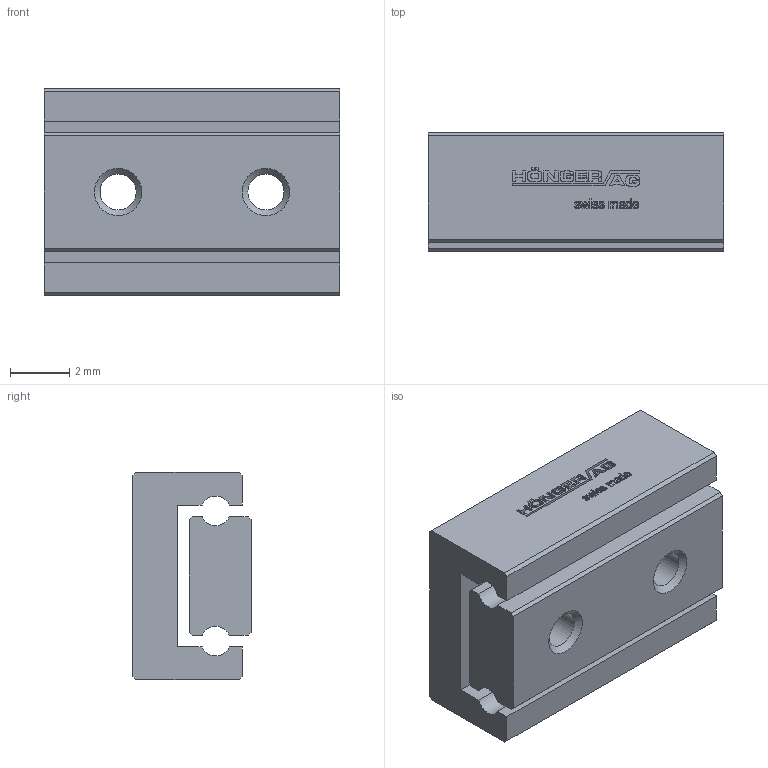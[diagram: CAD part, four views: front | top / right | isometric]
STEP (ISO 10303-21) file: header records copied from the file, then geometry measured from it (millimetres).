
FILE_DESCRIPTION(/* description */ ('STEP AP214'),/* implementation_level */ '2;1');
FILE_NAME(/* name */ 'NDN 05-10.05(0)',/* time_stamp */ '2025-04-16T17:06:34+02:00',/* author */ ('License CC BY-ND 4.0'),/* organization */ ('CADENAS'),/* preprocessor_version */ 'ST-DEVELOPER v19.3',/* originating_system */ 'PARTsolutions',/* authorisation */ ' ');
FILE_SCHEMA (('AUTOMOTIVE_DESIGN {1 0 10303 214 3 1 1}'));
Length unit declared in the file: millimetre
Products named in the file (3): NDN 05-10.05(0); NDN 05-10.05_1; NDN 05-10.05_2
Assembly tree (2 placements, depth 2):
  NDN 05-10.05(0)
    NDN 05-10.05_1
    NDN 05-10.05_2
Bounding box: 10 x 4 x 7 mm (x, y, z)
Volume: 219.9 mm3; surface area: 455.3 mm2
Topology: 2 solids, 2 shells, 507 faces, 1424 edges, 948 vertices
Faces by surface type: cylinder 300, plane 201, cone 6
Full cylindrical faces by diameter (mm): 1.221 x4
Entity records: 16615 total; most frequent: DIRECTION 3038, CARTESIAN_POINT 2868, ORIENTED_EDGE 2824, EDGE_CURVE 1412, AXIS2_PLACEMENT_3D 1116, VERTEX_POINT 946, LINE 806, VECTOR 806
